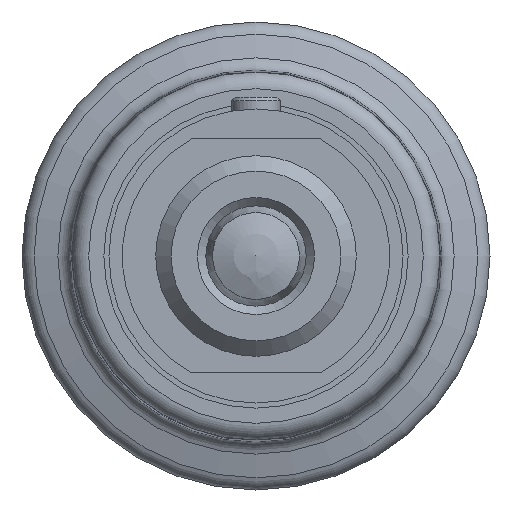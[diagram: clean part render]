
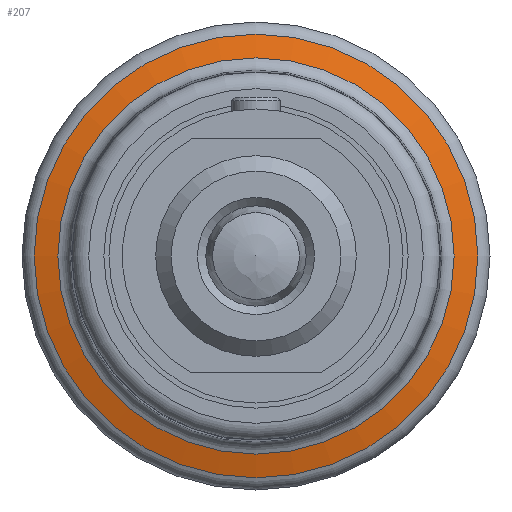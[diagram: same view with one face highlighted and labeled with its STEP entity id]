
A CAD part, left-side view. The second image highlights one B-rep face of the part: STEP entity #207.
In plain terms, the highlighted conical face has half-angle 74.478 degrees and reference radius 13.274 mm.
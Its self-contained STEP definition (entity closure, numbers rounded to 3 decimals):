
#207 = ADVANCED_FACE( '', ( #337, #338 ), #339, .T. );
#337 = FACE_BOUND( '', #491, .T. );
#338 = FACE_OUTER_BOUND( '', #492, .T. );
#339 = CONICAL_SURFACE( '', #493, 13.274, 1.3 );
#491 = EDGE_LOOP( '', ( #738 ) );
#492 = EDGE_LOOP( '', ( #739 ) );
#493 = AXIS2_PLACEMENT_3D( '', #740, #741, #742 );
#738 = ORIENTED_EDGE( '', *, *, #852, .F. );
#739 = ORIENTED_EDGE( '', *, *, #851, .T. );
#740 = CARTESIAN_POINT( '', ( 8.125, 0., 0. ) );
#741 = DIRECTION( '', ( -1., 0., 0. ) );
#742 = DIRECTION( '', ( 0., 0., 1. ) );
#851 = EDGE_CURVE( '', #953, #953, #954, .T. );
#852 = EDGE_CURVE( '', #955, #955, #956, .T. );
#953 = VERTEX_POINT( '', #1371 );
#954 = CIRCLE( '', #1372, 13.274 );
#955 = VERTEX_POINT( '', #1373 );
#956 = CIRCLE( '', #1374, 11.853 );
#1371 = CARTESIAN_POINT( '', ( 8.125, 0., -13.274 ) );
#1372 = AXIS2_PLACEMENT_3D( '', #1502, #1503, #1504 );
#1373 = CARTESIAN_POINT( '', ( 8.52, 0., -11.853 ) );
#1374 = AXIS2_PLACEMENT_3D( '', #1505, #1506, #1507 );
#1502 = CARTESIAN_POINT( '', ( 8.125, 0., 0. ) );
#1503 = DIRECTION( '', ( 1., 0., 0. ) );
#1504 = DIRECTION( '', ( 0., 0., -1. ) );
#1505 = CARTESIAN_POINT( '', ( 8.52, 0., 0. ) );
#1506 = DIRECTION( '', ( 1., 0., 0. ) );
#1507 = DIRECTION( '', ( 0., 0., -1. ) );
